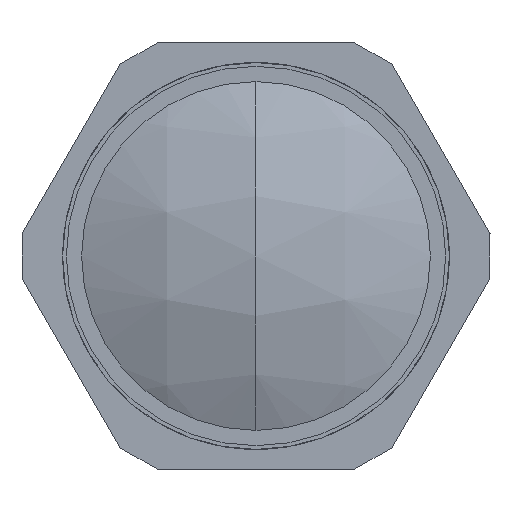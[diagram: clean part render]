
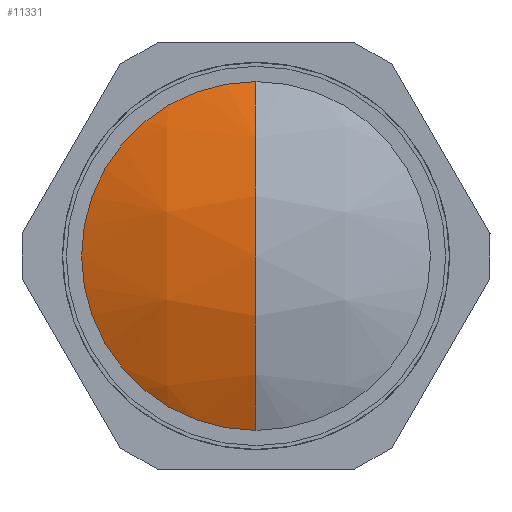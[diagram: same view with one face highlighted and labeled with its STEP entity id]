
A CAD part, left-side view. The second image highlights one B-rep face of the part: STEP entity #11331.
In plain terms, the highlighted spherical face has radius 25.481 mm.
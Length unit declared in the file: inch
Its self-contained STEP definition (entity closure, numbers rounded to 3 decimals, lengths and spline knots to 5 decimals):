
#2160 = AXIS2_PLACEMENT_3D ( 'NONE', #10707, #12951, #34058 ) ;
#2602 = AXIS2_PLACEMENT_3D ( 'NONE', #32718, #29612, #3506 ) ;
#3492 = CARTESIAN_POINT ( 'NONE',  ( -2.37095, 0., 0. ) ) ;
#3506 = DIRECTION ( 'NONE',  ( 1., 0., 0. ) ) ;
#9198 = VERTEX_POINT ( 'NONE', #28971 ) ;
#9458 = VERTEX_POINT ( 'NONE', #17990 ) ;
#10707 = CARTESIAN_POINT ( 'NONE',  ( -1.46777, 0., 0. ) ) ;
#11331 = ADVANCED_FACE ( 'NONE', ( #32051 ), #16804, .T. ) ;
#11532 = CIRCLE ( 'NONE', #2160, 1.00318 ) ;
#12951 = DIRECTION ( 'NONE',  ( 0., 1., 0. ) ) ;
#13260 = EDGE_CURVE ( 'NONE', #9198, #9458, #11532, .T. ) ;
#14916 = AXIS2_PLACEMENT_3D ( 'NONE', #3492, #16790, #24763 ) ;
#15459 = CIRCLE ( 'NONE', #14916, 0.43662 ) ;
#16790 = DIRECTION ( 'NONE',  ( -1., 0., 0. ) ) ;
#16804 = SPHERICAL_SURFACE ( 'NONE', #2602, 1.00318 ) ;
#17990 = CARTESIAN_POINT ( 'NONE',  ( -2.37095, 0., 0.43662 ) ) ;
#22544 = EDGE_CURVE ( 'NONE', #9458, #9198, #15459, .T. ) ;
#24763 = DIRECTION ( 'NONE',  ( 0., 0., 1. ) ) ;
#26361 = ORIENTED_EDGE ( 'NONE', *, *, #13260, .T. ) ;
#26534 = EDGE_LOOP ( 'NONE', ( #26824, #26361 ) ) ;
#26824 = ORIENTED_EDGE ( 'NONE', *, *, #22544, .T. ) ;
#28971 = CARTESIAN_POINT ( 'NONE',  ( -2.37095, 0., -0.43662 ) ) ;
#29612 = DIRECTION ( 'NONE',  ( 0., 1., 0. ) ) ;
#32051 = FACE_OUTER_BOUND ( 'NONE', #26534, .T. ) ;
#32718 = CARTESIAN_POINT ( 'NONE',  ( -1.46777, 0., 0. ) ) ;
#34058 = DIRECTION ( 'NONE',  ( -1., 0., 0. ) ) ;
